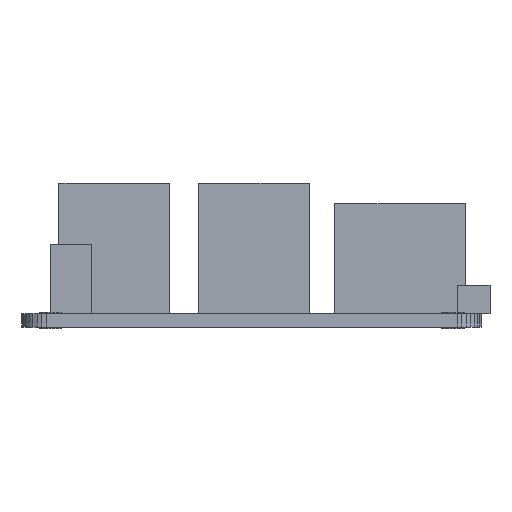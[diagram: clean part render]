
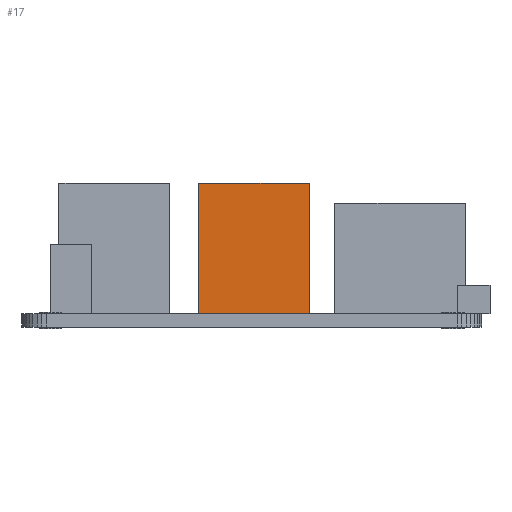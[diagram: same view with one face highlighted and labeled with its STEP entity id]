
A CAD part, left-side view. The second image highlights one B-rep face of the part: STEP entity #17.
In plain terms, the highlighted planar face has unit normal (-1, 0, 0).
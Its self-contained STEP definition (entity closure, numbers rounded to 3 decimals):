
#17 = ADVANCED_FACE('',(#18),#32,.T.);
#18 = FACE_BOUND('',#19,.T.);
#19 = EDGE_LOOP('',(#20,#55,#83,#111));
#20 = ORIENTED_EDGE('',*,*,#21,.T.);
#21 = EDGE_CURVE('',#22,#24,#26,.T.);
#22 = VERTEX_POINT('',#23);
#23 = CARTESIAN_POINT('',(70.7,34.5,17.5));
#24 = VERTEX_POINT('',#25);
#25 = CARTESIAN_POINT('',(70.7,34.5,1.6));
#26 = SURFACE_CURVE('',#27,(#31,#43),.PCURVE_S1.);
#27 = LINE('',#28,#29);
#28 = CARTESIAN_POINT('',(70.7,34.5,17.5));
#29 = VECTOR('',#30,1.);
#30 = DIRECTION('',(0.,0.,-1.));
#31 = PCURVE('',#32,#37);
#32 = PLANE('',#33);
#33 = AXIS2_PLACEMENT_3D('',#34,#35,#36);
#34 = CARTESIAN_POINT('',(70.7,29.885,7.415));
#35 = DIRECTION('',(-1.,-0.,-0.));
#36 = DIRECTION('',(0.,0.,-1.));
#37 = DEFINITIONAL_REPRESENTATION('',(#38),#42);
#38 = LINE('',#39,#40);
#39 = CARTESIAN_POINT('',(-10.085,-4.615));
#40 = VECTOR('',#41,1.);
#41 = DIRECTION('',(1.,0.));
#42 = ( GEOMETRIC_REPRESENTATION_CONTEXT(2) 
PARAMETRIC_REPRESENTATION_CONTEXT() REPRESENTATION_CONTEXT('2D SPACE',''
  ) );
#43 = PCURVE('',#44,#49);
#44 = PLANE('',#45);
#45 = AXIS2_PLACEMENT_3D('',#46,#47,#48);
#46 = CARTESIAN_POINT('',(87.18,34.5,8.87));
#47 = DIRECTION('',(0.,1.,0.));
#48 = DIRECTION('',(0.,-0.,1.));
#49 = DEFINITIONAL_REPRESENTATION('',(#50),#54);
#50 = LINE('',#51,#52);
#51 = CARTESIAN_POINT('',(8.63,-16.48));
#52 = VECTOR('',#53,1.);
#53 = DIRECTION('',(-1.,0.));
#54 = ( GEOMETRIC_REPRESENTATION_CONTEXT(2) 
PARAMETRIC_REPRESENTATION_CONTEXT() REPRESENTATION_CONTEXT('2D SPACE',''
  ) );
#55 = ORIENTED_EDGE('',*,*,#56,.F.);
#56 = EDGE_CURVE('',#57,#24,#59,.T.);
#57 = VERTEX_POINT('',#58);
#58 = CARTESIAN_POINT('',(70.7,21.,1.6));
#59 = SURFACE_CURVE('',#60,(#64,#71),.PCURVE_S1.);
#60 = LINE('',#61,#62);
#61 = CARTESIAN_POINT('',(70.7,21.,1.6));
#62 = VECTOR('',#63,1.);
#63 = DIRECTION('',(0.,1.,0.));
#64 = PCURVE('',#32,#65);
#65 = DEFINITIONAL_REPRESENTATION('',(#66),#70);
#66 = LINE('',#67,#68);
#67 = CARTESIAN_POINT('',(5.815,8.885));
#68 = VECTOR('',#69,1.);
#69 = DIRECTION('',(0.,-1.));
#70 = ( GEOMETRIC_REPRESENTATION_CONTEXT(2) 
PARAMETRIC_REPRESENTATION_CONTEXT() REPRESENTATION_CONTEXT('2D SPACE',''
  ) );
#71 = PCURVE('',#72,#77);
#72 = PLANE('',#73);
#73 = AXIS2_PLACEMENT_3D('',#74,#75,#76);
#74 = CARTESIAN_POINT('',(3.408,49.42,1.6));
#75 = DIRECTION('',(0.,0.,1.));
#76 = DIRECTION('',(1.,0.,-0.));
#77 = DEFINITIONAL_REPRESENTATION('',(#78),#82);
#78 = LINE('',#79,#80);
#79 = CARTESIAN_POINT('',(67.292,-28.42));
#80 = VECTOR('',#81,1.);
#81 = DIRECTION('',(0.,1.));
#82 = ( GEOMETRIC_REPRESENTATION_CONTEXT(2) 
PARAMETRIC_REPRESENTATION_CONTEXT() REPRESENTATION_CONTEXT('2D SPACE',''
  ) );
#83 = ORIENTED_EDGE('',*,*,#84,.T.);
#84 = EDGE_CURVE('',#57,#85,#87,.T.);
#85 = VERTEX_POINT('',#86);
#86 = CARTESIAN_POINT('',(70.7,21.,17.5));
#87 = SURFACE_CURVE('',#88,(#92,#99),.PCURVE_S1.);
#88 = LINE('',#89,#90);
#89 = CARTESIAN_POINT('',(70.7,21.,1.6));
#90 = VECTOR('',#91,1.);
#91 = DIRECTION('',(0.,0.,1.));
#92 = PCURVE('',#32,#93);
#93 = DEFINITIONAL_REPRESENTATION('',(#94),#98);
#94 = LINE('',#95,#96);
#95 = CARTESIAN_POINT('',(5.815,8.885));
#96 = VECTOR('',#97,1.);
#97 = DIRECTION('',(-1.,0.));
#98 = ( GEOMETRIC_REPRESENTATION_CONTEXT(2) 
PARAMETRIC_REPRESENTATION_CONTEXT() REPRESENTATION_CONTEXT('2D SPACE',''
  ) );
#99 = PCURVE('',#100,#105);
#100 = PLANE('',#101);
#101 = AXIS2_PLACEMENT_3D('',#102,#103,#104);
#102 = CARTESIAN_POINT('',(75.646,21.,7.346));
#103 = DIRECTION('',(-0.,-1.,-0.));
#104 = DIRECTION('',(0.,0.,-1.));
#105 = DEFINITIONAL_REPRESENTATION('',(#106),#110);
#106 = LINE('',#107,#108);
#107 = CARTESIAN_POINT('',(5.746,-4.946));
#108 = VECTOR('',#109,1.);
#109 = DIRECTION('',(-1.,0.));
#110 = ( GEOMETRIC_REPRESENTATION_CONTEXT(2) 
PARAMETRIC_REPRESENTATION_CONTEXT() REPRESENTATION_CONTEXT('2D SPACE',''
  ) );
#111 = ORIENTED_EDGE('',*,*,#112,.F.);
#112 = EDGE_CURVE('',#22,#85,#113,.T.);
#113 = SURFACE_CURVE('',#114,(#118,#125),.PCURVE_S1.);
#114 = LINE('',#115,#116);
#115 = CARTESIAN_POINT('',(70.7,34.5,17.5));
#116 = VECTOR('',#117,1.);
#117 = DIRECTION('',(0.,-1.,0.));
#118 = PCURVE('',#32,#119);
#119 = DEFINITIONAL_REPRESENTATION('',(#120),#124);
#120 = LINE('',#121,#122);
#121 = CARTESIAN_POINT('',(-10.085,-4.615));
#122 = VECTOR('',#123,1.);
#123 = DIRECTION('',(0.,1.));
#124 = ( GEOMETRIC_REPRESENTATION_CONTEXT(2) 
PARAMETRIC_REPRESENTATION_CONTEXT() REPRESENTATION_CONTEXT('2D SPACE',''
  ) );
#125 = PCURVE('',#126,#131);
#126 = PLANE('',#127);
#127 = AXIS2_PLACEMENT_3D('',#128,#129,#130);
#128 = CARTESIAN_POINT('',(81.564,29.964,17.5));
#129 = DIRECTION('',(0.,0.,1.));
#130 = DIRECTION('',(1.,0.,-0.));
#131 = DEFINITIONAL_REPRESENTATION('',(#132),#136);
#132 = LINE('',#133,#134);
#133 = CARTESIAN_POINT('',(-10.864,4.536));
#134 = VECTOR('',#135,1.);
#135 = DIRECTION('',(0.,-1.));
#136 = ( GEOMETRIC_REPRESENTATION_CONTEXT(2) 
PARAMETRIC_REPRESENTATION_CONTEXT() REPRESENTATION_CONTEXT('2D SPACE',''
  ) );
